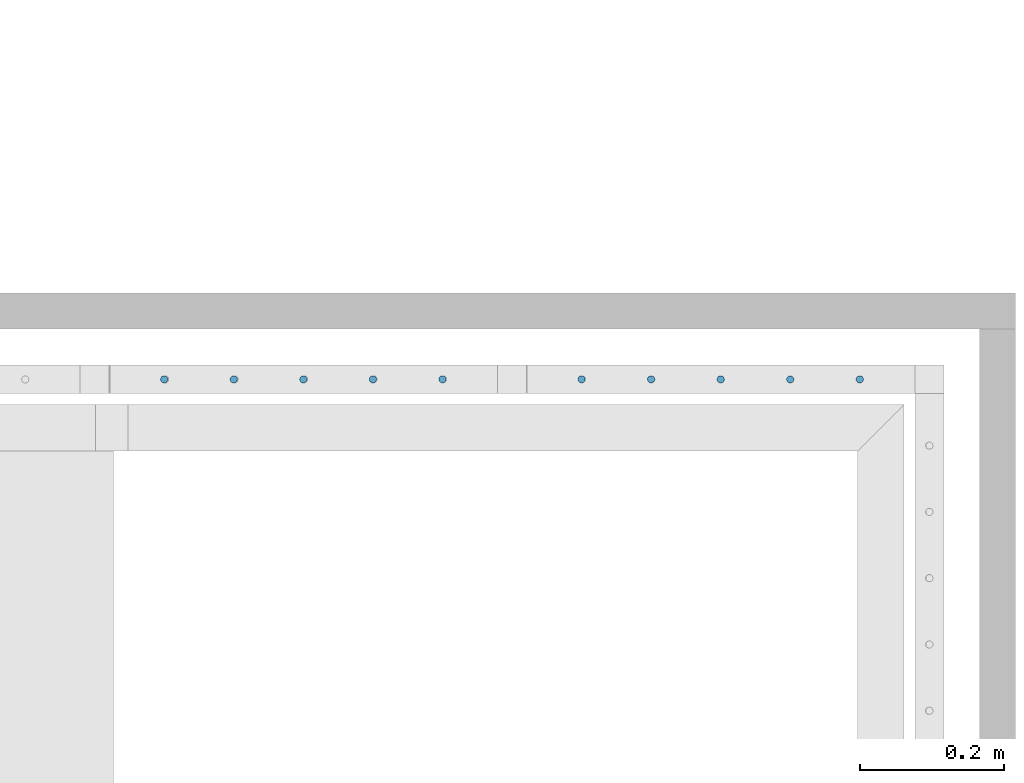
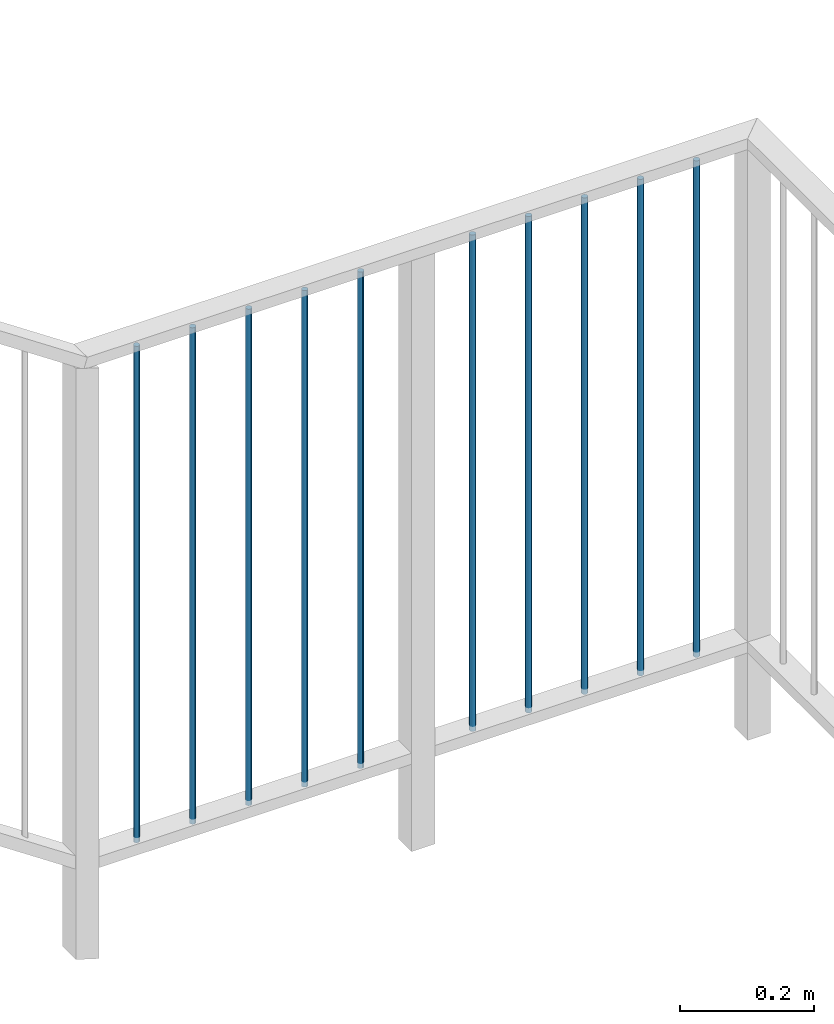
# One storey, part 42 of 135: 10 members, 1 element without a shape of its own.
"""IFC2X3 building model written with IfcOpenShell, lengths in millimetres."""

from ifc_helpers import new_model, entity, si_unit, converted_unit, derived_unit, money_unit, direction, frame, origin_with_axes, place, context, subcontext, project, spatial, faceted_brep, source, transform, mapped, material, type_object, type_shapes, element, aggregate, save


model = new_model("IFC2X3")

# Units and contexts
model_context = context("Model", 3, precision=0.01, world=origin_with_axes(), true_north=direction((0.0, 1.0)))
body_context = subcontext(model_context, "Body", "Model", "MODEL_VIEW")
ifc_project = project(units=[si_unit("LENGTHUNIT", "METRE", prefix="MILLI"), si_unit("AREAUNIT", "SQUARE_METRE"), si_unit("VOLUMEUNIT", "CUBIC_METRE"), converted_unit("PLANEANGLEUNIT", "DEGREE", entity("IfcPlaneAngleMeasure", 0.0174532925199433), si_unit("PLANEANGLEUNIT", "RADIAN"), dimensions=[0, 0, 0, 0, 0, 0, 0]), money_unit("EUR"), converted_unit("TIMEUNIT", "Year", entity("IfcTimeMeasure", 31557600.0), si_unit("TIMEUNIT", "SECOND"), dimensions=[0, 0, 1, 0, 0, 0, 0]), si_unit("MASSUNIT", "GRAM", prefix="KILO"), si_unit("THERMODYNAMICTEMPERATUREUNIT", "DEGREE_CELSIUS"), si_unit("LUMINOUSINTENSITYUNIT", "LUMEN"), si_unit("ENERGYUNIT", "JOULE", prefix="MEGA"), derived_unit("THERMALCONDUCTANCEUNIT", [(si_unit("POWERUNIT", "WATT"), 1), (si_unit("LENGTHUNIT", "METRE"), -1), (si_unit("THERMODYNAMICTEMPERATUREUNIT", "KELVIN"), -1)]), derived_unit("SPECIFICHEATCAPACITYUNIT", [(si_unit("ENERGYUNIT", "JOULE"), 1), (si_unit("MASSUNIT", "GRAM", prefix="KILO"), -1), (si_unit("THERMODYNAMICTEMPERATUREUNIT", "KELVIN"), -1)]), derived_unit("MASSDENSITYUNIT", [(si_unit("MASSUNIT", "GRAM", prefix="KILO"), 1), (si_unit("VOLUMEUNIT", "CUBIC_METRE"), -1)])], contexts=[model_context])

# Site, building, storey
site_placement = place(None, origin_with_axes())
site = spatial("IfcSite", under=ifc_project, at=site_placement, Name="Site", CompositionType="ELEMENT")
building_placement = place(site_placement, origin_with_axes())
building = spatial("IfcBuilding", under=site, at=building_placement, Name="Naam gebouw", CompositionType="ELEMENT")
storey_placement = place(building_placement, origin_with_axes())
storey = spatial("IfcBuildingStorey", under=building, at=storey_placement, Name="Begane grond N", CompositionType="ELEMENT", Elevation=0.0)

# Railing, members
railing_type = type_object("IfcRailingType", Name="Railing Type", PredefinedType="NOTDEFINED")
railing_placement = place(storey_placement, frame((56236.62159597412, 21185.9124251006, 4176.0), z_axis=(0.0, 0.0, 1.0), x_axis=(1.0, 0.0, 0.0)))
railing = element("IfcRailing", 1, at=railing_placement, inside=storey, type_object=railing_type, Name="_Reling-x", PredefinedType="NOTDEFINED")
ifc_material = material(Name="Metaal - Staal C")
member_type = type_object("IfcMemberType", Name="IfcMember", PredefinedType="MEMBER")
shared_shape = source(origin_with_axes(), body_context, "Body", "Brep", [
    faceted_brep([(0.0, -5.0, 0.0), (0.8682408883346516, -4.92403876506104, 0.0), (0.868240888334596, -4.92403876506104, 907.5000000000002), (0.0, -5.0, 907.5000000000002), (-0.868240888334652, -4.92403876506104, 0.0), (-1.710100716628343, -4.698463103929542, 0.0), (-2.500000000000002, -4.330127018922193, 0.0), (-3.213938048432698, -3.830222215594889, 0.0), (-3.830222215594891, -3.213938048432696, 0.0), (-4.330127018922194, -2.5, 0.0), (-4.698463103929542, -1.710100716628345, 0.0), (-4.924038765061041, -0.86824088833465, 0.0), (-5.0, 0.0, 0.0), (-4.92403876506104, 0.8682408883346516, 0.0), (-4.698463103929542, 1.710100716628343, 0.0), (-4.330127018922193, 2.500000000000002, 0.0), (-3.83022221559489, 3.213938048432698, 0.0), (-3.213938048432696, 3.83022221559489, 0.0), (-2.5, 4.330127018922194, 0.0), (-1.710100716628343, 4.698463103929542, 0.0), (-0.8682408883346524, 4.92403876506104, 0.0), (0.0, 5.0, 0.0), (0.8682408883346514, 4.92403876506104, 0.0), (1.710100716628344, 4.698463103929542, 0.0), (2.5, 4.330127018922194, 0.0), (3.213938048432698, 3.83022221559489, 0.0), (3.83022221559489, 3.213938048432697, 0.0), (4.330127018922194, 2.499999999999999, 0.0), (4.698463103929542, 1.710100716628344, 0.0), (4.92403876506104, 0.8682408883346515, 0.0), (5.0, 0.0, 0.0), (4.92403876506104, -0.8682408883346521, 0.0), (4.698463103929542, -1.710100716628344, 0.0), (4.330127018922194, -2.5, 0.0), (3.83022221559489, -3.213938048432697, 0.0), (3.213938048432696, -3.83022221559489, 0.0), (2.5, -4.330127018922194, 0.0), (1.710100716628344, -4.698463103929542, 0.0), (1.710100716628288, -4.698463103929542, 907.5000000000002), (2.499999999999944, -4.330127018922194, 907.5000000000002), (3.213938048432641, -3.83022221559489, 907.5000000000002), (3.830222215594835, -3.213938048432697, 907.5000000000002), (4.330127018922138, -2.5, 907.5000000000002), (4.698463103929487, -1.710100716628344, 907.5000000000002), (4.924038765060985, -0.8682408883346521, 907.5000000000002), (4.999999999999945, 0.0, 907.5000000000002), (4.924038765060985, 0.8682408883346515, 907.5000000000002), (4.698463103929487, 1.710100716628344, 907.5000000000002), (4.330127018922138, 2.499999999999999, 907.5000000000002), (3.830222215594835, 3.213938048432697, 907.5000000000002), (3.213938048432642, 3.83022221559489, 907.5000000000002), (2.499999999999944, 4.330127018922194, 907.5000000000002), (1.710100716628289, 4.698463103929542, 907.5000000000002), (0.8682408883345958, 4.92403876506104, 907.5000000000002), (0.0, 5.0, 907.5000000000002), (-0.868240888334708, 4.92403876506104, 907.5000000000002), (-1.710100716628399, 4.698463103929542, 907.5000000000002), (-2.500000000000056, 4.330127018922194, 907.5000000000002), (-3.213938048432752, 3.83022221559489, 907.5000000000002), (-3.830222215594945, 3.213938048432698, 907.5000000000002), (-4.330127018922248, 2.500000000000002, 907.5000000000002), (-4.698463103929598, 1.710100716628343, 907.5000000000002), (-4.924038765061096, 0.8682408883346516, 907.5000000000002), (-5.000000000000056, 0.0, 907.5000000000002), (-4.924038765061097, -0.86824088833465, 907.5000000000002), (-4.698463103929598, -1.710100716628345, 907.5000000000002), (-4.330127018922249, -2.5, 907.5000000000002), (-3.830222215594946, -3.213938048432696, 907.5000000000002), (-3.213938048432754, -3.830222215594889, 907.5000000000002), (-2.500000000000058, -4.330127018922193, 907.5000000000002), (-1.710100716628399, -4.698463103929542, 907.5000000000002), (-0.8682408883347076, -4.92403876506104, 907.5000000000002)], [[[0, 1, 2, 3]], [[0, 4, 5, 6, 7, 8, 9, 10, 11, 12, 13, 14, 15, 16, 17, 18, 19, 20, 21, 22, 23, 24, 25, 26, 27, 28, 29, 30, 31, 32, 33, 34, 35, 36, 37, 1]], [[1, 37, 38, 2]], [[3, 2, 38, 39, 40, 41, 42, 43, 44, 45, 46, 47, 48, 49, 50, 51, 52, 53, 54, 55, 56, 57, 58, 59, 60, 61, 62, 63, 64, 65, 66, 67, 68, 69, 70, 71]], [[4, 0, 3, 71]], [[5, 4, 71, 70]], [[6, 5, 70, 69]], [[7, 6, 69, 68]], [[8, 7, 68, 67]], [[9, 8, 67, 66]], [[10, 9, 66, 65]], [[11, 10, 65, 64]], [[12, 11, 64, 63]], [[13, 12, 63, 62]], [[14, 13, 62, 61]], [[15, 14, 61, 60]], [[16, 15, 60, 59]], [[17, 16, 59, 58]], [[18, 17, 58, 57]], [[19, 18, 57, 56]], [[20, 19, 56, 55]], [[21, 20, 55, 54]], [[22, 21, 54, 53]], [[23, 22, 53, 52]], [[24, 23, 52, 51]], [[25, 24, 51, 50]], [[26, 25, 50, 49]], [[27, 26, 49, 48]], [[28, 27, 48, 47]], [[29, 28, 47, 46]], [[30, 29, 46, 45]], [[31, 30, 45, 44]], [[32, 31, 44, 43]], [[33, 32, 43, 42]], [[34, 33, 42, 41]], [[35, 34, 41, 40]], [[36, 35, 40, 39]], [[37, 36, 39, 38]]]),
])
type_shapes(member_type, [shared_shape])
member_1_placement = place(railing_placement, frame((3811.582088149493, 2465.000000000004, 1806.673611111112), z_axis=(0.0, 0.0, 1.0), x_axis=(1.0, 0.0, 0.0)))
member_1 = element("IfcMember", 2, at=member_1_placement, type_object=member_type, material=ifc_material, Name="_Spijlen-x", ObjectType="MEMBER", context=body_context, shape_type="MappedRepresentation", body=[
    mapped(shared_shape, transform((0.0, 0.0, 0.0), x_axis=(0.0, 1.0, 0.0), y_axis=(-1.0, 0.0, 0.0), z_axis=(0.0, 0.0, 1.0))),
])
member_2_placement = place(railing_placement, frame((3714.785772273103, 2465.000000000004, 1806.673611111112), z_axis=(0.0, 0.0, 1.0), x_axis=(1.0, 0.0, 0.0)))
member_2 = element("IfcMember", 3, at=member_2_placement, type_object=member_type, material=ifc_material, Name="_Spijlen-x", ObjectType="MEMBER", context=body_context, shape_type="MappedRepresentation", body=[
    mapped(shared_shape, transform((0.0, 0.0, 0.0), x_axis=(0.0, 1.0, 0.0), y_axis=(-1.0, 0.0, 0.0), z_axis=(0.0, 0.0, 1.0))),
])
member_3_placement = place(railing_placement, frame((3617.989456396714, 2465.000000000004, 1806.673611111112), z_axis=(0.0, 0.0, 1.0), x_axis=(1.0, 0.0, 0.0)))
member_3 = element("IfcMember", 4, at=member_3_placement, type_object=member_type, material=ifc_material, Name="_Spijlen-x", ObjectType="MEMBER", context=body_context, shape_type="MappedRepresentation", body=[
    mapped(shared_shape, transform((0.0, 0.0, 0.0), x_axis=(0.0, 1.0, 0.0), y_axis=(-1.0, 0.0, 0.0), z_axis=(0.0, 0.0, 1.0))),
])
member_4_placement = place(railing_placement, frame((3521.193140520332, 2465.000000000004, 1806.673611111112), z_axis=(0.0, 0.0, 1.0), x_axis=(1.0, 0.0, 0.0)))
member_4 = element("IfcMember", 5, at=member_4_placement, type_object=member_type, material=ifc_material, Name="_Spijlen-x", ObjectType="MEMBER", context=body_context, shape_type="MappedRepresentation", body=[
    mapped(shared_shape, transform((0.0, 0.0, 0.0), x_axis=(0.0, 1.0, 0.0), y_axis=(-1.0, 0.0, 0.0), z_axis=(0.0, 0.0, 1.0))),
])
member_5_placement = place(railing_placement, frame((3424.396824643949, 2465.000000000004, 1806.673611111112), z_axis=(0.0, 0.0, 1.0), x_axis=(1.0, 0.0, 0.0)))
member_5 = element("IfcMember", 6, at=member_5_placement, type_object=member_type, material=ifc_material, Name="_Spijlen-x", ObjectType="MEMBER", context=body_context, shape_type="MappedRepresentation", body=[
    mapped(shared_shape, transform((0.0, 0.0, 0.0), x_axis=(0.0, 1.0, 0.0), y_axis=(-1.0, 0.0, 0.0), z_axis=(0.0, 0.0, 1.0))),
])
member_6_placement = place(railing_placement, frame((3230.804192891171, 2465.000000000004, 1806.673611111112), z_axis=(0.0, 0.0, 1.0), x_axis=(1.0, 0.0, 0.0)))
member_6 = element("IfcMember", 7, at=member_6_placement, type_object=member_type, material=ifc_material, Name="_Spijlen-x", ObjectType="MEMBER", context=body_context, shape_type="MappedRepresentation", body=[
    mapped(shared_shape, transform((0.0, 0.0, 0.0), x_axis=(0.0, 1.0, 0.0), y_axis=(-1.0, 0.0, 0.0), z_axis=(0.0, 0.0, 1.0))),
])
member_7_placement = place(railing_placement, frame((3134.007877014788, 2465.000000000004, 1806.673611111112), z_axis=(0.0, 0.0, 1.0), x_axis=(1.0, 0.0, 0.0)))
member_7 = element("IfcMember", 8, at=member_7_placement, type_object=member_type, material=ifc_material, Name="_Spijlen-x", ObjectType="MEMBER", context=body_context, shape_type="MappedRepresentation", body=[
    mapped(shared_shape, transform((0.0, 0.0, 0.0), x_axis=(0.0, 1.0, 0.0), y_axis=(-1.0, 0.0, 0.0), z_axis=(0.0, 0.0, 1.0))),
])
member_8_placement = place(railing_placement, frame((3037.211561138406, 2465.000000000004, 1806.673611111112), z_axis=(0.0, 0.0, 1.0), x_axis=(1.0, 0.0, 0.0)))
member_8 = element("IfcMember", 9, at=member_8_placement, type_object=member_type, material=ifc_material, Name="_Spijlen-x", ObjectType="MEMBER", context=body_context, shape_type="MappedRepresentation", body=[
    mapped(shared_shape, transform((0.0, 0.0, 0.0), x_axis=(0.0, 1.0, 0.0), y_axis=(-1.0, 0.0, 0.0), z_axis=(0.0, 0.0, 1.0))),
])
member_9_placement = place(railing_placement, frame((2940.415245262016, 2465.000000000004, 1806.673611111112), z_axis=(0.0, 0.0, 1.0), x_axis=(1.0, 0.0, 0.0)))
member_9 = element("IfcMember", 10, at=member_9_placement, type_object=member_type, material=ifc_material, Name="_Spijlen-x", ObjectType="MEMBER", context=body_context, shape_type="MappedRepresentation", body=[
    mapped(shared_shape, transform((0.0, 0.0, 0.0), x_axis=(0.0, 1.0, 0.0), y_axis=(-1.0, 0.0, 0.0), z_axis=(0.0, 0.0, 1.0))),
])
member_10_placement = place(railing_placement, frame((2843.618929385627, 2465.000000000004, 1806.673611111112), z_axis=(0.0, 0.0, 1.0), x_axis=(1.0, 0.0, 0.0)))
member_10 = element("IfcMember", 11, at=member_10_placement, type_object=member_type, material=ifc_material, Name="_Spijlen-x", ObjectType="MEMBER", context=body_context, shape_type="MappedRepresentation", body=[
    mapped(shared_shape, transform((0.0, 0.0, 0.0), x_axis=(0.0, 1.0, 0.0), y_axis=(-1.0, 0.0, 0.0), z_axis=(0.0, 0.0, 1.0))),
])
aggregate(railing, [member_1, member_2, member_3, member_4, member_5, member_6, member_7, member_8, member_9, member_10])

save(model, "model.ifc")
